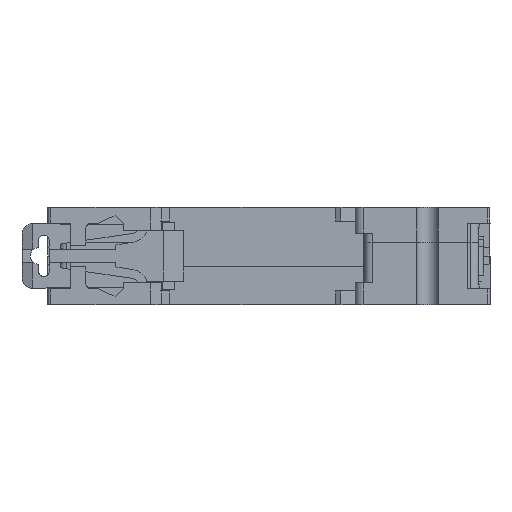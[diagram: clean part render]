
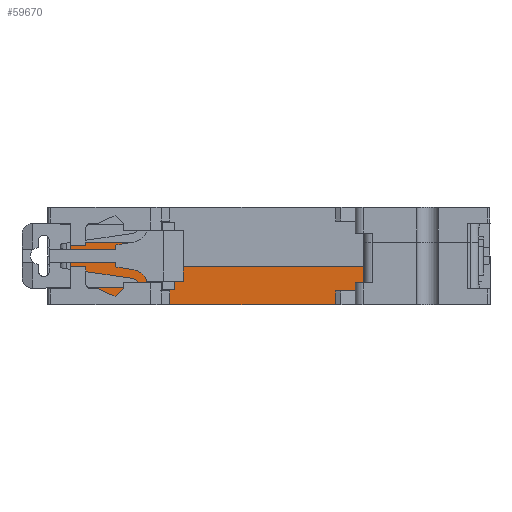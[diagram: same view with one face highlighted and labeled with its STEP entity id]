
A CAD part, front view. The second image highlights one B-rep face of the part: STEP entity #59670.
In plain terms, the highlighted planar face has unit normal (0, -1, 0).
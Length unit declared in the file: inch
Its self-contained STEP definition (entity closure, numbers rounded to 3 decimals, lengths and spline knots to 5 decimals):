
#38 = EDGE_CURVE ( 'NONE', #25805, #29962, #56826, .T. ) ;
#354 = CARTESIAN_POINT ( 'NONE',  ( -0.63583, 0., 0.44882 ) ) ;
#744 = VECTOR ( 'NONE', #8129, 39.37008 ) ;
#1579 = CARTESIAN_POINT ( 'NONE',  ( -0.71654, 0., 0.09843 ) ) ;
#1702 = EDGE_CURVE ( 'NONE', #32774, #6453, #16005, .T. ) ;
#1723 = EDGE_CURVE ( 'NONE', #14363, #46829, #26411, .T. ) ;
#1985 = ORIENTED_EDGE ( 'NONE', *, *, #49873, .T. ) ;
#3989 = ORIENTED_EDGE ( 'NONE', *, *, #12709, .F. ) ;
#5064 = LINE ( 'NONE', #34266, #58110 ) ;
#5147 = ORIENTED_EDGE ( 'NONE', *, *, #57087, .T. ) ;
#5308 = PLANE ( 'NONE',  #63717 ) ;
#5593 = CARTESIAN_POINT ( 'NONE',  ( -1.22839, 0., 0.11417 ) ) ;
#6359 = LINE ( 'NONE', #19837, #61018 ) ;
#6453 = VERTEX_POINT ( 'NONE', #5593 ) ;
#6971 = VERTEX_POINT ( 'NONE', #66156 ) ;
#7531 = CARTESIAN_POINT ( 'NONE',  ( -1.11024, 0., 0.05906 ) ) ;
#8112 = VECTOR ( 'NONE', #25670, 39.37008 ) ;
#8129 = DIRECTION ( 'NONE',  ( 1., 0., 0. ) ) ;
#8349 = DIRECTION ( 'NONE',  ( 0., 0., 1. ) ) ;
#8421 = DIRECTION ( 'NONE',  ( 0.944, 0., -0.33 ) ) ;
#9600 = VERTEX_POINT ( 'NONE', #20930 ) ;
#9654 = CARTESIAN_POINT ( 'NONE',  ( -1.51575, 0., 0.11417 ) ) ;
#10504 = DIRECTION ( 'NONE',  ( 0., -1., 0. ) ) ;
#12272 = VERTEX_POINT ( 'NONE', #12397 ) ;
#12397 = CARTESIAN_POINT ( 'NONE',  ( -1.05122, 0., 0.11417 ) ) ;
#12411 = CARTESIAN_POINT ( 'NONE',  ( -1.4311, 0., 0.11417 ) ) ;
#12709 = EDGE_CURVE ( 'NONE', #32774, #58584, #22553, .T. ) ;
#12934 = CARTESIAN_POINT ( 'NONE',  ( -0.8937, 0., 0.09843 ) ) ;
#13074 = CARTESIAN_POINT ( 'NONE',  ( -1.51575, 0., 0.11417 ) ) ;
#14329 = VERTEX_POINT ( 'NONE', #17849 ) ;
#14363 = VERTEX_POINT ( 'NONE', #23237 ) ;
#14882 = LINE ( 'NONE', #62865, #38970 ) ;
#14890 = DIRECTION ( 'NONE',  ( 1., 0., 0. ) ) ;
#15140 = ORIENTED_EDGE ( 'NONE', *, *, #50776, .T. ) ;
#15268 = ORIENTED_EDGE ( 'NONE', *, *, #24988, .T. ) ;
#15581 = ORIENTED_EDGE ( 'NONE', *, *, #44525, .T. ) ;
#16005 = LINE ( 'NONE', #13074, #744 ) ;
#16450 = ORIENTED_EDGE ( 'NONE', *, *, #42393, .T. ) ;
#17455 = CARTESIAN_POINT ( 'NONE',  ( 0.48031, 0., 0. ) ) ;
#17849 = CARTESIAN_POINT ( 'NONE',  ( 0.48031, 0., 0.09843 ) ) ;
#19255 = CARTESIAN_POINT ( 'NONE',  ( 0.68504, 0., 0. ) ) ;
#19635 = VERTEX_POINT ( 'NONE', #53991 ) ;
#19837 = CARTESIAN_POINT ( 'NONE',  ( 0.48031, 0., 0.09843 ) ) ;
#19978 = LINE ( 'NONE', #9654, #45640 ) ;
#20847 = VERTEX_POINT ( 'NONE', #45921 ) ;
#20925 = VECTOR ( 'NONE', #46664, 39.37008 ) ;
#20930 = CARTESIAN_POINT ( 'NONE',  ( -0.71654, 0., 0. ) ) ;
#22055 = DIRECTION ( 'NONE',  ( 0.906, 0., -0.423 ) ) ;
#22553 = LINE ( 'NONE', #26032, #20925 ) ;
#23237 = CARTESIAN_POINT ( 'NONE',  ( -0.8937, 0., 0.05906 ) ) ;
#24137 = CARTESIAN_POINT ( 'NONE',  ( -0.71654, 0., 0.09843 ) ) ;
#24242 = CARTESIAN_POINT ( 'NONE',  ( 0.68504, 0., 0. ) ) ;
#24386 = DIRECTION ( 'NONE',  ( -1., 0., 0. ) ) ;
#24796 = LINE ( 'NONE', #12934, #48877 ) ;
#24988 = EDGE_CURVE ( 'NONE', #29962, #58584, #42634, .T. ) ;
#25067 = ORIENTED_EDGE ( 'NONE', *, *, #60028, .T. ) ;
#25670 = DIRECTION ( 'NONE',  ( 1., 0., 0. ) ) ;
#25805 = VERTEX_POINT ( 'NONE', #58797 ) ;
#26032 = CARTESIAN_POINT ( 'NONE',  ( -1.4311, 0., 0.11417 ) ) ;
#26061 = VECTOR ( 'NONE', #29438, 39.37008 ) ;
#26411 = LINE ( 'NONE', #44250, #36859 ) ;
#26458 = DIRECTION ( 'NONE',  ( 1., 0., 0. ) ) ;
#29013 = VECTOR ( 'NONE', #58312, 39.37008 ) ;
#29438 = DIRECTION ( 'NONE',  ( 0., 0., -1. ) ) ;
#29470 = ORIENTED_EDGE ( 'NONE', *, *, #38, .T. ) ;
#29528 = VECTOR ( 'NONE', #57753, 39.37008 ) ;
#29962 = VERTEX_POINT ( 'NONE', #354 ) ;
#30585 = VECTOR ( 'NONE', #46177, 39.37008 ) ;
#31507 = VECTOR ( 'NONE', #14890, 39.37008 ) ;
#32170 = LINE ( 'NONE', #41051, #30585 ) ;
#32598 = VECTOR ( 'NONE', #39824, 39.37008 ) ;
#32774 = VERTEX_POINT ( 'NONE', #12411 ) ;
#34266 = CARTESIAN_POINT ( 'NONE',  ( -1.05118, 0., 0.11417 ) ) ;
#34938 = ORIENTED_EDGE ( 'NONE', *, *, #53845, .T. ) ;
#35712 = EDGE_CURVE ( 'NONE', #14329, #61182, #6359, .T. ) ;
#36020 = CARTESIAN_POINT ( 'NONE',  ( -0.71654, 0., 0. ) ) ;
#36108 = CARTESIAN_POINT ( 'NONE',  ( -1.51575, 0., 0.11417 ) ) ;
#36567 = CARTESIAN_POINT ( 'NONE',  ( -0.71654, 0., 0. ) ) ;
#36801 = VECTOR ( 'NONE', #26458, 39.37008 ) ;
#36859 = VECTOR ( 'NONE', #8349, 39.37008 ) ;
#37023 = LINE ( 'NONE', #36020, #8112 ) ;
#37078 = CARTESIAN_POINT ( 'NONE',  ( -0.63583, 0., 0.27165 ) ) ;
#38546 = DIRECTION ( 'NONE',  ( 1., 0., 0. ) ) ;
#38970 = VECTOR ( 'NONE', #22055, 39.37008 ) ;
#39030 = ORIENTED_EDGE ( 'NONE', *, *, #44021, .T. ) ;
#39634 = DIRECTION ( 'NONE',  ( 0., 0., -1. ) ) ;
#39824 = DIRECTION ( 'NONE',  ( 0.731, 0., 0.683 ) ) ;
#41040 = ORIENTED_EDGE ( 'NONE', *, *, #58326, .T. ) ;
#41051 = CARTESIAN_POINT ( 'NONE',  ( 0.62992, 0., 0.09843 ) ) ;
#42393 = EDGE_CURVE ( 'NONE', #6453, #53715, #14882, .T. ) ;
#42634 = LINE ( 'NONE', #47963, #29013 ) ;
#43022 = ORIENTED_EDGE ( 'NONE', *, *, #35712, .F. ) ;
#43070 = LINE ( 'NONE', #45000, #56766 ) ;
#44021 = EDGE_CURVE ( 'NONE', #14329, #19635, #45116, .T. ) ;
#44250 = CARTESIAN_POINT ( 'NONE',  ( -0.8937, 0., 0.05906 ) ) ;
#44525 = EDGE_CURVE ( 'NONE', #46829, #48438, #24796, .T. ) ;
#44726 = CARTESIAN_POINT ( 'NONE',  ( -1.11024, 0., 0.05906 ) ) ;
#45000 = CARTESIAN_POINT ( 'NONE',  ( 0.68504, 0., 0.27165 ) ) ;
#45116 = LINE ( 'NONE', #50807, #31507 ) ;
#45640 = VECTOR ( 'NONE', #60839, 39.37008 ) ;
#45921 = CARTESIAN_POINT ( 'NONE',  ( 0.68504, 0., 0.27165 ) ) ;
#46177 = DIRECTION ( 'NONE',  ( 0., 0., -1. ) ) ;
#46399 = DIRECTION ( 'NONE',  ( 1., 0., 0. ) ) ;
#46664 = DIRECTION ( 'NONE',  ( 0., 0., 1. ) ) ;
#46829 = VERTEX_POINT ( 'NONE', #54399 ) ;
#47963 = CARTESIAN_POINT ( 'NONE',  ( 1.17126, 0., 0.44882 ) ) ;
#48294 = VECTOR ( 'NONE', #39634, 39.37008 ) ;
#48323 = EDGE_LOOP ( 'NONE', ( #43022, #39030, #1985, #63888, #54357, #41040, #29470, #15268, #3989, #59320, #16450, #15140, #5147, #25067, #51008, #15581, #34938, #52669 ) ) ;
#48438 = VERTEX_POINT ( 'NONE', #1579 ) ;
#48820 = LINE ( 'NONE', #36567, #36801 ) ;
#48877 = VECTOR ( 'NONE', #38546, 39.37008 ) ;
#49873 = EDGE_CURVE ( 'NONE', #19635, #6971, #32170, .T. ) ;
#49932 = LINE ( 'NONE', #24137, #48294 ) ;
#50597 = DIRECTION ( 'NONE',  ( 0., 0., -1. ) ) ;
#50776 = EDGE_CURVE ( 'NONE', #53715, #12272, #61500, .T. ) ;
#50807 = CARTESIAN_POINT ( 'NONE',  ( 0.48031, 0., 0.09843 ) ) ;
#51008 = ORIENTED_EDGE ( 'NONE', *, *, #1723, .T. ) ;
#51344 = EDGE_CURVE ( 'NONE', #20847, #57675, #53412, .T. ) ;
#51405 = CARTESIAN_POINT ( 'NONE',  ( -1.05118, 0., 0.11417 ) ) ;
#52669 = ORIENTED_EDGE ( 'NONE', *, *, #63492, .T. ) ;
#53412 = LINE ( 'NONE', #24242, #26061 ) ;
#53715 = VERTEX_POINT ( 'NONE', #7531 ) ;
#53845 = EDGE_CURVE ( 'NONE', #48438, #9600, #49932, .T. ) ;
#53991 = CARTESIAN_POINT ( 'NONE',  ( 0.62992, 0., 0.09843 ) ) ;
#54042 = EDGE_CURVE ( 'NONE', #6971, #57675, #37023, .T. ) ;
#54357 = ORIENTED_EDGE ( 'NONE', *, *, #51344, .F. ) ;
#54399 = CARTESIAN_POINT ( 'NONE',  ( -0.8937, 0., 0.09843 ) ) ;
#56582 = FACE_OUTER_BOUND ( 'NONE', #48323, .T. ) ;
#56766 = VECTOR ( 'NONE', #24386, 39.37008 ) ;
#56826 = LINE ( 'NONE', #37078, #29528 ) ;
#57087 = EDGE_CURVE ( 'NONE', #12272, #57193, #19978, .T. ) ;
#57193 = VERTEX_POINT ( 'NONE', #51405 ) ;
#57576 = CARTESIAN_POINT ( 'NONE',  ( -1.4311, 0., 0.44882 ) ) ;
#57675 = VERTEX_POINT ( 'NONE', #19255 ) ;
#57753 = DIRECTION ( 'NONE',  ( 0., 0., 1. ) ) ;
#58110 = VECTOR ( 'NONE', #8421, 39.37008 ) ;
#58312 = DIRECTION ( 'NONE',  ( -1., 0., 0. ) ) ;
#58326 = EDGE_CURVE ( 'NONE', #20847, #25805, #43070, .T. ) ;
#58584 = VERTEX_POINT ( 'NONE', #57576 ) ;
#58797 = CARTESIAN_POINT ( 'NONE',  ( -0.63583, 0., 0.27165 ) ) ;
#59320 = ORIENTED_EDGE ( 'NONE', *, *, #1702, .T. ) ;
#59670 = ADVANCED_FACE ( 'NONE', ( #56582 ), #5308, .T. ) ;
#60028 = EDGE_CURVE ( 'NONE', #57193, #14363, #5064, .T. ) ;
#60839 = DIRECTION ( 'NONE',  ( 1., 0., 0. ) ) ;
#61018 = VECTOR ( 'NONE', #50597, 39.37008 ) ;
#61182 = VERTEX_POINT ( 'NONE', #17455 ) ;
#61500 = LINE ( 'NONE', #44726, #32598 ) ;
#62865 = CARTESIAN_POINT ( 'NONE',  ( -1.22839, 0., 0.11417 ) ) ;
#63492 = EDGE_CURVE ( 'NONE', #9600, #61182, #48820, .T. ) ;
#63717 = AXIS2_PLACEMENT_3D ( 'NONE', #36108, #10504, #46399 ) ;
#63888 = ORIENTED_EDGE ( 'NONE', *, *, #54042, .T. ) ;
#66156 = CARTESIAN_POINT ( 'NONE',  ( 0.62992, 0., 0. ) ) ;
